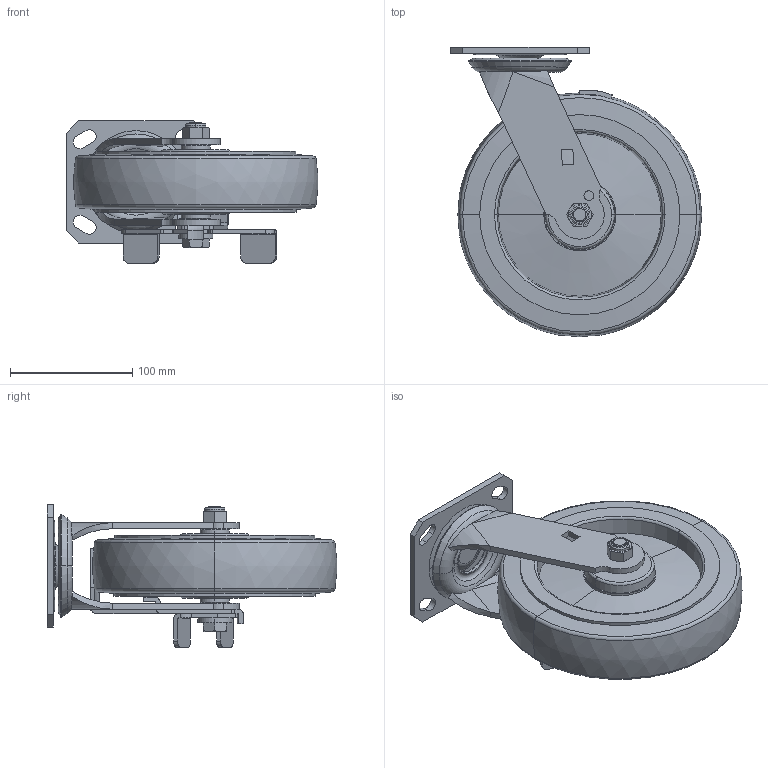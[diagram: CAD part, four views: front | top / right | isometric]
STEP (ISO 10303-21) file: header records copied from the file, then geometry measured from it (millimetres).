
FILE_DESCRIPTION((''),'2;1');
FILE_NAME('S7128C_ASM','2021-10-19T',('lenovo'),(''),'PRO/ENGINEER BY PARAMETRIC TECHNOLOGY CORPORATION, 2010280','PRO/ENGINEER BY PARAMETRIC TECHNOLOGY CORPORATION, 2010280','');
FILE_SCHEMA(('CONFIG_CONTROL_DESIGN'));
Length unit declared in the file: millimetre
Products named in the file (10): S710-01; S710C03; S718C11; S718-11_ASM; S718-15; S710-14; S710-33-1; S710-34; 708-986; S7128C_ASM
Assembly tree (9 placements, depth 3):
  S7128C_ASM
    S710-01
    S718-11_ASM
      S710C03
      S718C11
    S718-15
    S710-14
    S710-33-1
    S710-34
    708-986
Bounding box: 205.79 x 236.79 x 116.5 mm (x, y, z)
Volume: 1383662.8 mm3; surface area: 201545.1 mm2
Topology: 9 solids, 9 shells, 464 faces, 1168 edges, 747 vertices
Faces by surface type: plane 252, cylinder 106, cone 60, torus 36, bspline 10
Entity records: 14598 total; most frequent: CARTESIAN_POINT 3024, DIRECTION 2409, ORIENTED_EDGE 2336, EDGE_CURVE 1168, AXIS2_PLACEMENT_3D 822, VECTOR 765, LINE 765, VERTEX_POINT 747
